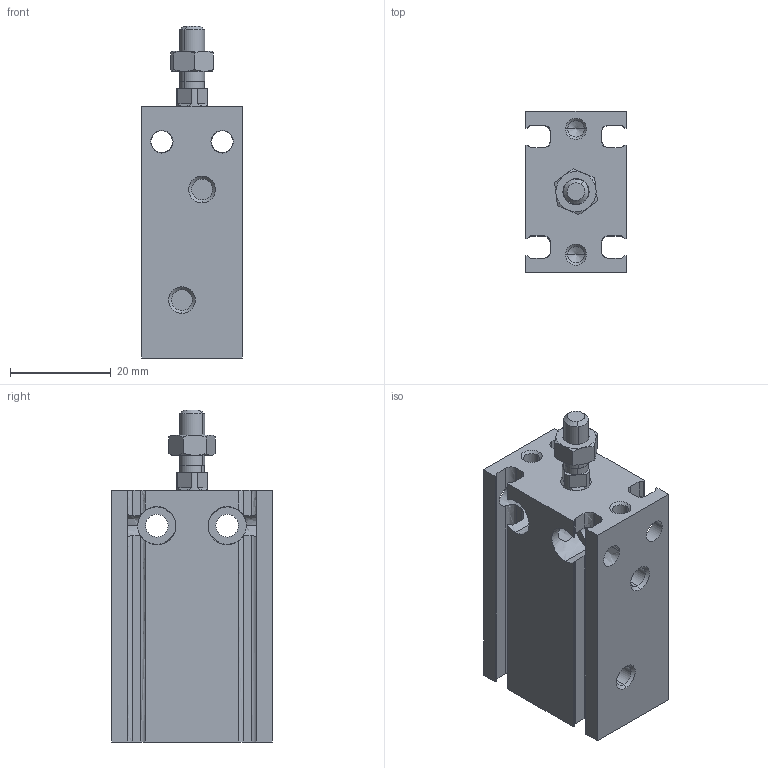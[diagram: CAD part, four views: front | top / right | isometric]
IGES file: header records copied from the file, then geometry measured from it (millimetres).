
Global section: file name: No Iges File Name specified; native system: Autodesk Inventor 2011; preprocessor: AutoDesk Inventor Iges Exporter R2011; author: airolcr1; date: 20110614.145550; units: millimetre
Bounding box: 20 x 32 x 66 mm (x, y, z)
Volume: 25635.1 mm3; surface area: 11265.8 mm2
Topology: 3 solids, 3 shells, 184 faces, 494 edges, 314 vertices
Faces by surface type: bspline 82, plane 54, revolution 28, cone 14, cylinder 6
